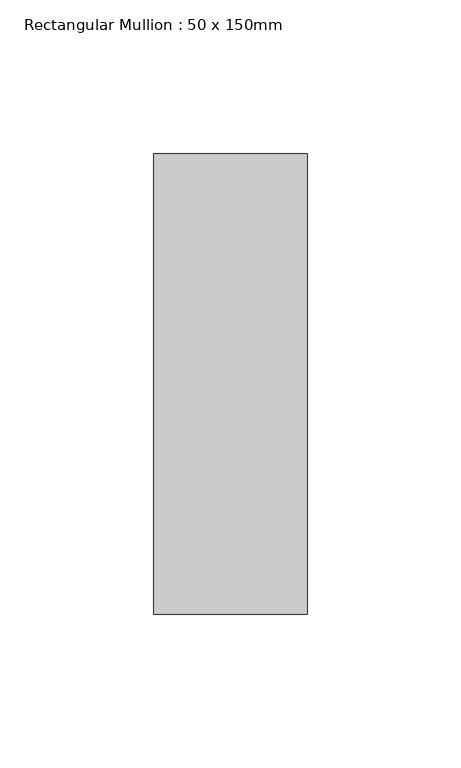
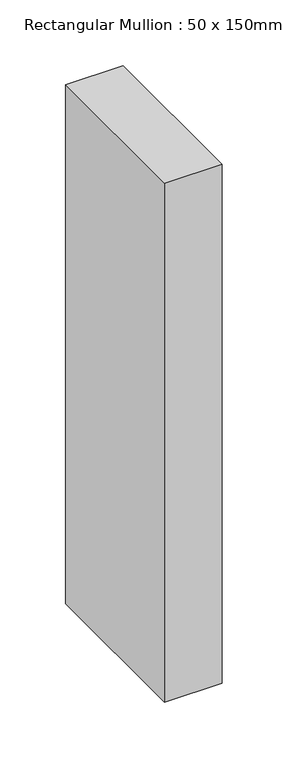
"""IFC4 building model written with IfcOpenShell, lengths in millimetres: member geometry, Rectangular Mullion : 50 x 150mm."""

from ifc_helpers import new_model, si_unit, frame, origin, place, context, project, spatial, polyline, outline, extrude, source, transform, mapped, element, save


def rectangular_mullion_50_x_150mm_7cabd389(model_context):
    return source(origin(), model_context, "Body", "SweptSolid", [
        extrude(outline(polyline([(25.0, 75.0), (25.0, -75.0), (-25.0, -75.0), (-25.0, 75.0), (25.0, 75.0)])), frame((0.0, 0.0, -480.0), z_axis=(0.0, 0.0, 1.0), x_axis=(1.0, 0.0, 0.0)), (0.0, 0.0, 1.0), 480.0),
    ])


if __name__ == "__main__":
    model = new_model("IFC4")
    model_context = context("Model", 3, world=origin())
    ifc_project = project(units=[si_unit("LENGTHUNIT", "METRE", prefix="MILLI")], contexts=[model_context])
    site = spatial("IfcSite", under=ifc_project)
    building = spatial("IfcBuilding", under=site)
    placement = place(None, origin())
    rectangular_mullion_50_x_150mm_shape = rectangular_mullion_50_x_150mm_7cabd389(model_context)
    element("IfcMember", 1, ObjectType="Rectangular Mullion : 50 x 150mm", at=placement, inside=building, context=model_context, shape_type="MappedRepresentation", body=[
        mapped(rectangular_mullion_50_x_150mm_shape, transform((0.0, 0.0, 0.0), x_axis=(1.0, 0.0, 0.0), y_axis=(0.0, 1.0, 0.0), z_axis=(0.0, 0.0, 1.0))),
    ])
    save(model, "model.ifc")
